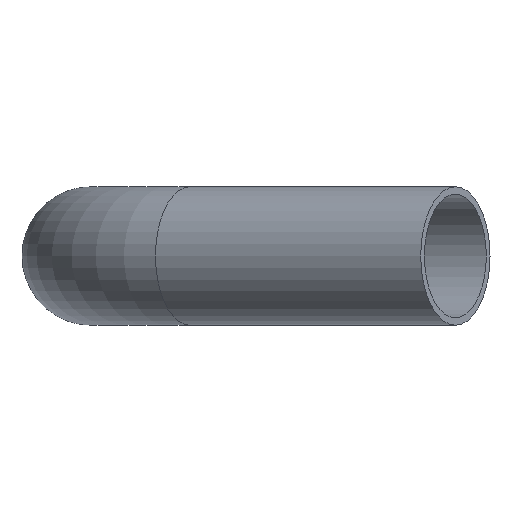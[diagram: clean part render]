
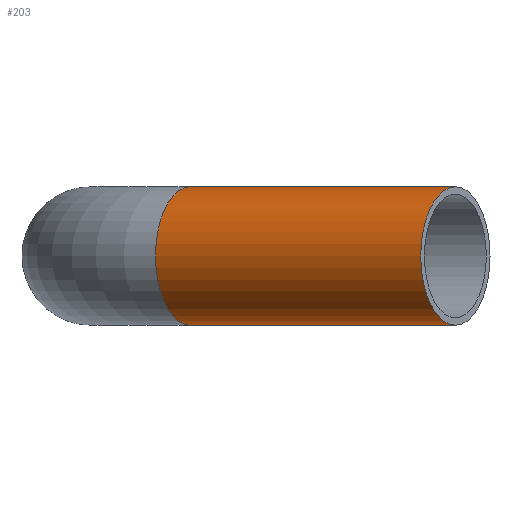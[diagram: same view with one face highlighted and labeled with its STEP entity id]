
A CAD part, left-side view. The second image highlights one B-rep face of the part: STEP entity #203.
In plain terms, the highlighted cylindrical face has radius 14 mm (diameter 28 mm), a full revolution.
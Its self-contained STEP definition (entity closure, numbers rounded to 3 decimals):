
#172=CARTESIAN_POINT('',(-46.765,27.,0.));
#173=VERTEX_POINT('',#172);
#174=CARTESIAN_POINT('',(-34.641,20.,0.0));
#175=DIRECTION('',(-0.5,-0.866,0.0));
#176=DIRECTION('',(0.866,-0.5,0.0));
#177=AXIS2_PLACEMENT_3D('',#174,#175,#176);
#178=CIRCLE('',#177,14.);
#179=EDGE_CURVE('',#173,#173,#178,.T.);
#184=CARTESIAN_POINT('',(-65.594,-33.612,0.0));
#185=DIRECTION('',(0.5,0.866,0.0));
#186=DIRECTION('',(0.866,-0.5,0.0));
#187=AXIS2_PLACEMENT_3D('',#184,#185,#186);
#188=CYLINDRICAL_SURFACE('',#187,14.);
#189=ORIENTED_EDGE('',*,*,#179,.T.);
#190=EDGE_LOOP('',(#189));
#191=FACE_OUTER_BOUND('',#190,.T.);
#192=CARTESIAN_POINT('',(-77.718,-26.612,0.));
#193=VERTEX_POINT('',#192);
#194=CARTESIAN_POINT('',(-65.594,-33.612,0.0));
#195=DIRECTION('',(-0.5,-0.866,0.0));
#196=DIRECTION('',(0.866,-0.5,0.0));
#197=AXIS2_PLACEMENT_3D('',#194,#195,#196);
#198=CIRCLE('',#197,14.);
#199=EDGE_CURVE('',#193,#193,#198,.T.);
#200=ORIENTED_EDGE('',*,*,#199,.F.);
#201=EDGE_LOOP('',(#200));
#202=FACE_BOUND('',#201,.T.);
#203=ADVANCED_FACE('',(#191,#202),#188,.T.);
